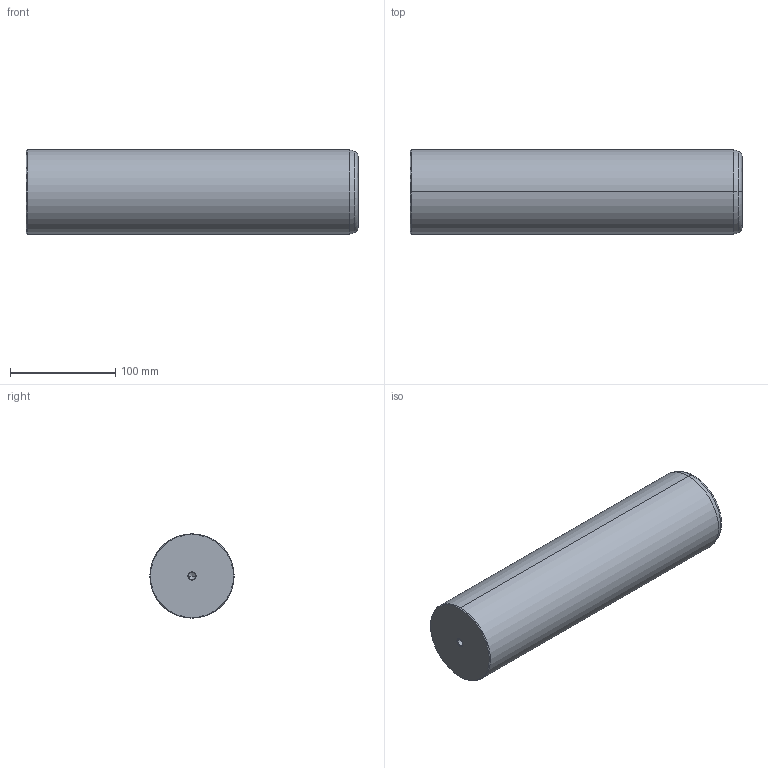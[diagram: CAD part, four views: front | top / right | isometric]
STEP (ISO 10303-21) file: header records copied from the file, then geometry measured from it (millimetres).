
FILE_DESCRIPTION(('CATIA V5 STEP Exchange'),'2;1');
FILE_NAME('C:\Users\Utente\Desktop\IO LAVORO\3D X SITO CF\X SITO\720\720-80x315.stp','2020-12-30T21:23:11+00:00',('none'),('none'),'CATIA Version 5 Release 20 GA (IN-10)','CATIA V5 STEP AP203','none');
FILE_SCHEMA(('CONFIG_CONTROL_DESIGN'));
Length unit declared in the file: millimetre
Products named in the file (1): 720-80x315
Bounding box: 315 x 80 x 80 mm (x, y, z)
Volume: 1578793.6 mm3; surface area: 89327.1 mm2
Topology: 1 solids, 1 shells, 22 faces, 62 edges, 40 vertices
Faces by surface type: cone 12, cylinder 6, plane 2, torus 2
Entity records: 806 total; most frequent: CARTESIAN_POINT 229, ORIENTED_EDGE 116, DIRECTION 93, EDGE_CURVE 58, AXIS2_PLACEMENT_3D 54, VERTEX_POINT 40, CIRCLE 31, EDGE_LOOP 24
